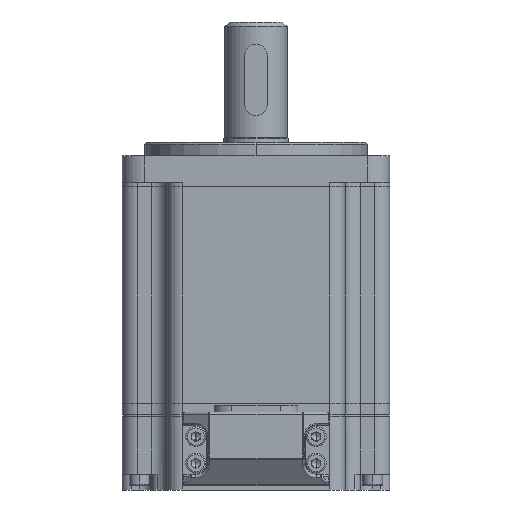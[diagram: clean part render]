
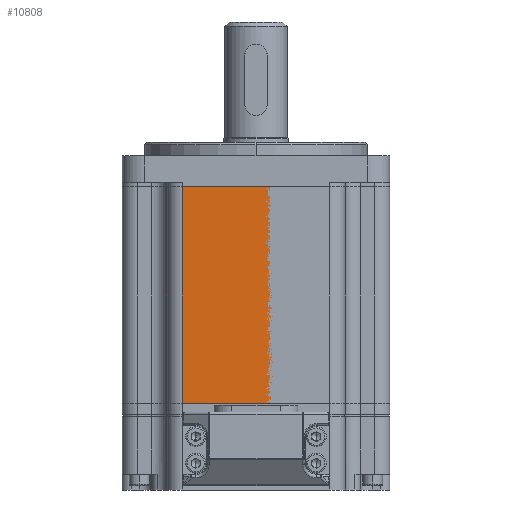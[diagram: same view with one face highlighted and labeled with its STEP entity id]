
A CAD part, left-side view. The second image highlights one B-rep face of the part: STEP entity #10808.
In plain terms, the highlighted planar face has unit normal (-1, 0, 0).
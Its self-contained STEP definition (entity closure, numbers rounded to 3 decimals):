
#57 = CARTESIAN_POINT ( 'NONE',  ( -30., -16.5, -1. ) ) ;
#557 = VECTOR ( 'NONE', #8248, 1000. ) ;
#3617 = ORIENTED_EDGE ( 'NONE', *, *, #20643, .T. ) ;
#4207 = LINE ( 'NONE', #29398, #47786 ) ;
#6548 = CARTESIAN_POINT ( 'NONE',  ( -30., 20., -49.5 ) ) ;
#8248 = DIRECTION ( 'NONE',  ( 0., 1., 0. ) ) ;
#8885 = ORIENTED_EDGE ( 'NONE', *, *, #15953, .T. ) ;
#9292 = LINE ( 'NONE', #30831, #27909 ) ;
#9533 = CARTESIAN_POINT ( 'NONE',  ( -30., 16.5, -49.5 ) ) ;
#10450 = LINE ( 'NONE', #30518, #557 ) ;
#10808 = ADVANCED_FACE ( 'NONE', ( #20922 ), #14224, .F. ) ;
#11380 = VERTEX_POINT ( 'NONE', #14214 ) ;
#12200 = CARTESIAN_POINT ( 'NONE',  ( -30., 16.5, -1. ) ) ;
#13019 = EDGE_LOOP ( 'NONE', ( #3617, #8885, #34414, #34408 ) ) ;
#13295 = DIRECTION ( 'NONE',  ( 0., 0., -1. ) ) ;
#14214 = CARTESIAN_POINT ( 'NONE',  ( -30., 16.5, -49.5 ) ) ;
#14224 = PLANE ( 'NONE',  #34102 ) ;
#15906 = DIRECTION ( 'NONE',  ( 0., 0., 1. ) ) ;
#15953 = EDGE_CURVE ( 'NONE', #22810, #11380, #25101, .T. ) ;
#19643 = VERTEX_POINT ( 'NONE', #57 ) ;
#20643 = EDGE_CURVE ( 'NONE', #19643, #22810, #4207, .T. ) ;
#20922 = FACE_OUTER_BOUND ( 'NONE', #13019, .T. ) ;
#21503 = CARTESIAN_POINT ( 'NONE',  ( -30., -16.5, -49.5 ) ) ;
#21699 = DIRECTION ( 'NONE',  ( 1., 0., 0. ) ) ;
#22574 = VERTEX_POINT ( 'NONE', #21503 ) ;
#22810 = VERTEX_POINT ( 'NONE', #12200 ) ;
#25101 = LINE ( 'NONE', #9533, #33810 ) ;
#27909 = VECTOR ( 'NONE', #15906, 1000. ) ;
#29398 = CARTESIAN_POINT ( 'NONE',  ( -30., 20., -1. ) ) ;
#30376 = EDGE_CURVE ( 'NONE', #22574, #11380, #10450, .T. ) ;
#30435 = EDGE_CURVE ( 'NONE', #22574, #19643, #9292, .T. ) ;
#30518 = CARTESIAN_POINT ( 'NONE',  ( -30., 20., -49.5 ) ) ;
#30831 = CARTESIAN_POINT ( 'NONE',  ( -30., -16.5, -49.5 ) ) ;
#33810 = VECTOR ( 'NONE', #13295, 1000. ) ;
#34102 = AXIS2_PLACEMENT_3D ( 'NONE', #6548, #21699, #47626 ) ;
#34408 = ORIENTED_EDGE ( 'NONE', *, *, #30435, .T. ) ;
#34414 = ORIENTED_EDGE ( 'NONE', *, *, #30376, .F. ) ;
#47626 = DIRECTION ( 'NONE',  ( 0., 0., 1. ) ) ;
#47786 = VECTOR ( 'NONE', #47904, 1000. ) ;
#47904 = DIRECTION ( 'NONE',  ( 0., 1., 0. ) ) ;
